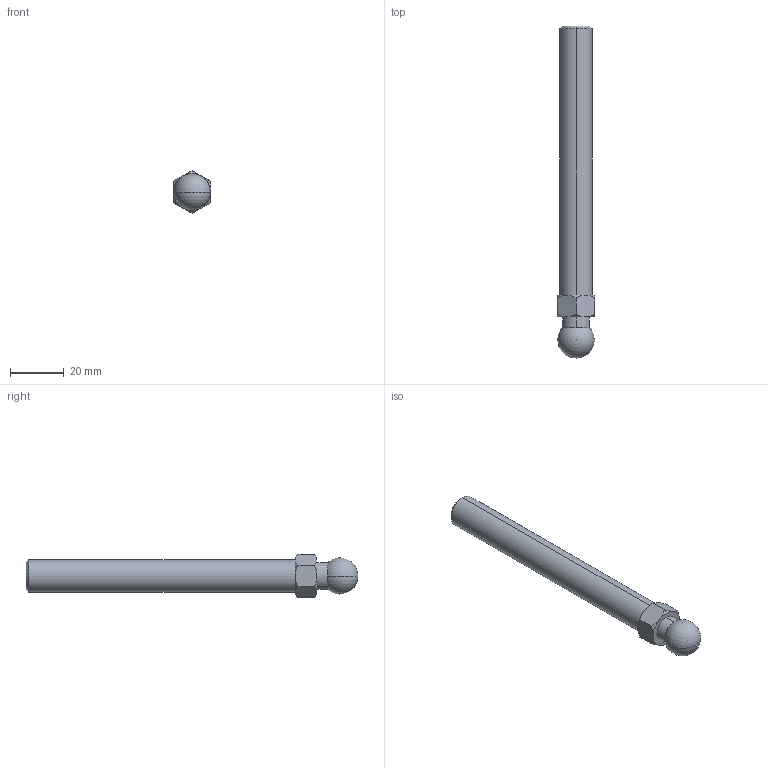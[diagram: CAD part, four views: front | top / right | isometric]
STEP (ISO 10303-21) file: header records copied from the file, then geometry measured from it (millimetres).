
FILE_DESCRIPTION (( 'STEP AP203' ), '1' );
FILE_NAME ('CP-TR12X100.STEP', '2018-03-16T12:31:32', ( '' ), ( '' ), 'SwSTEP 2.0', 'SolidWorks 2013', '' );
FILE_SCHEMA (( 'CONFIG_CONTROL_DESIGN' ));
Length unit declared in the file: millimetre
Products named in the file (1): CP-TR12X100
Bounding box: 13.86 x 123.28 x 16 mm (x, y, z)
Volume: 14123.9 mm3; surface area: 4970 mm2
Topology: 1 solids, 1 shells, 31 faces, 83 edges, 54 vertices
Faces by surface type: cone 16, plane 9, cylinder 4, sphere 2
Entity records: 1101 total; most frequent: CARTESIAN_POINT 297, ORIENTED_EDGE 156, DIRECTION 146, EDGE_CURVE 78, AXIS2_PLACEMENT_3D 60, VERTEX_POINT 51, EDGE_LOOP 33, ADVANCED_FACE 31
